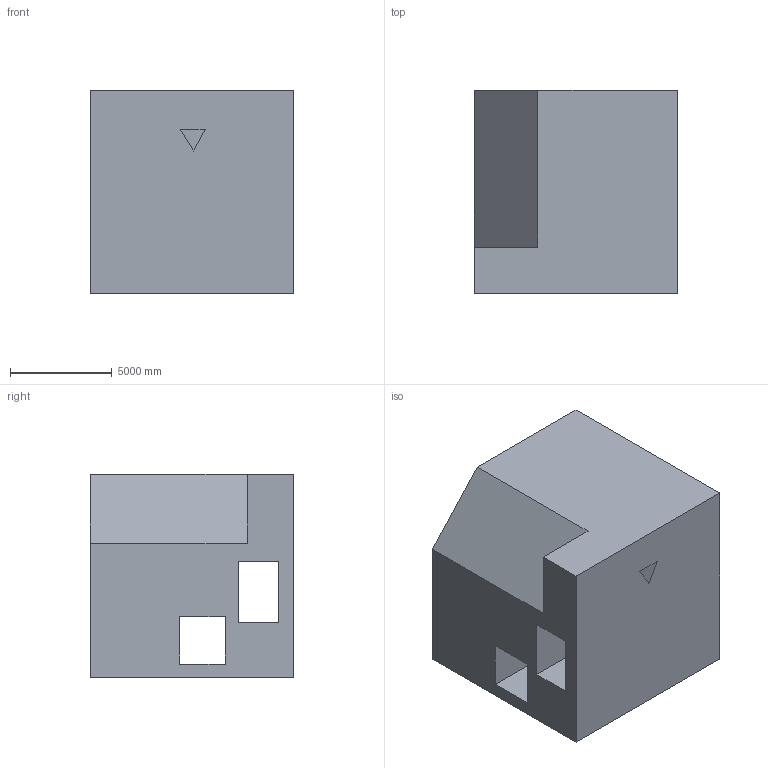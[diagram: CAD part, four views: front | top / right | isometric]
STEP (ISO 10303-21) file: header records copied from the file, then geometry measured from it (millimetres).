
FILE_DESCRIPTION (( 'STEP AP203' ), '1' );
FILE_NAME ('380.STEP', '2022-07-29T11:03:56', ( 'user' ), ( '' ), 'SwSTEP 2.0', 'SolidWorks 2021', '' );
FILE_SCHEMA (( 'CONFIG_CONTROL_DESIGN' ));
Length unit declared in the file: centimetre
Products named in the file (1): 380
Bounding box: 10000 x 10000 x 10000 mm (x, y, z)
Volume: 841733364835.6 mm3; surface area: 785716852 mm2
Topology: 1 solids, 1 shells, 20 faces, 51 edges, 34 vertices
Faces by surface type: plane 20
Entity records: 680 total; most frequent: CARTESIAN_POINT 106, ORIENTED_EDGE 102, DIRECTION 93, LINE 51, EDGE_CURVE 51, VECTOR 51, VERTEX_POINT 34, EDGE_LOOP 25
